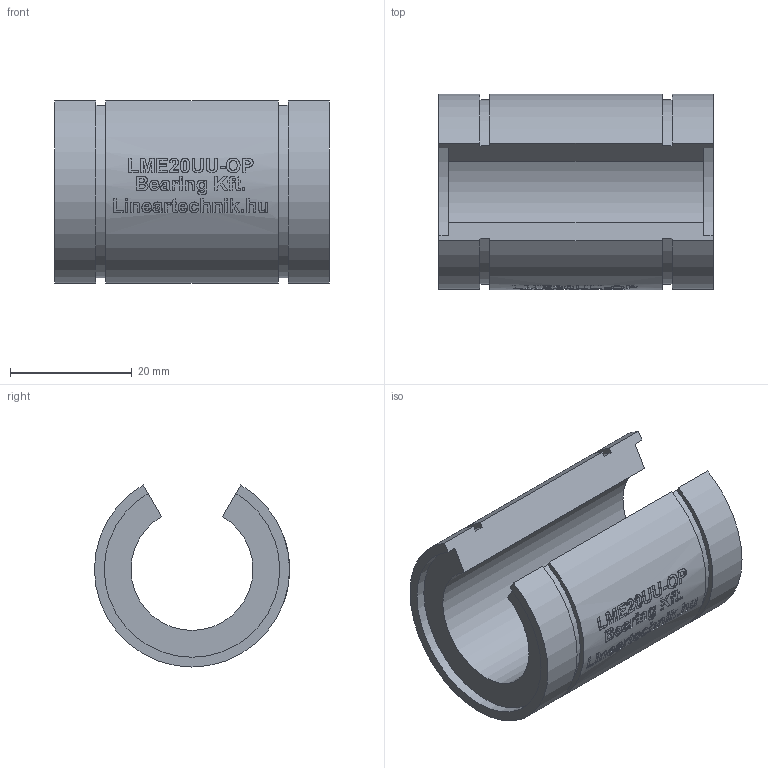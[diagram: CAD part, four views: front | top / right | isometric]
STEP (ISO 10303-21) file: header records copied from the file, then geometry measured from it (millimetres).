
FILE_DESCRIPTION(/* description */ (''),/* implementation_level */ '2;1');
FILE_NAME(/* name */ 'LME20UU-OP',/* time_stamp */ '2019-07-02T16:22:57+02:00',/* author */ ('VĂ©gh MĂˇtĂ©'),/* organization */ ('Bearing Kft'),/* preprocessor_version */ 'ST-DEVELOPER v16.7',/* originating_system */ 'DEX',/* authorisation */ $);
FILE_SCHEMA (('AUTOMOTIVE_DESIGN {1 0 10303 214 3 1 1}'));
Length unit declared in the file: millimetre
Products named in the file (1): LME20UU-OP
Bounding box: 45 x 32 x 29.86 mm (x, y, z)
Volume: 17252.6 mm3; surface area: 7819 mm2
Topology: 1 solids, 1 shells, 334 faces, 844 edges, 563 vertices
Faces by surface type: plane 180, bspline 95, cylinder 59
Entity records: 17517 total; most frequent: CARTESIAN_POINT 9935, ORIENTED_EDGE 1678, DIRECTION 1295, EDGE_CURVE 839, VERTEX_POINT 563, LINE 477, VECTOR 477, AXIS2_PLACEMENT_3D 409
